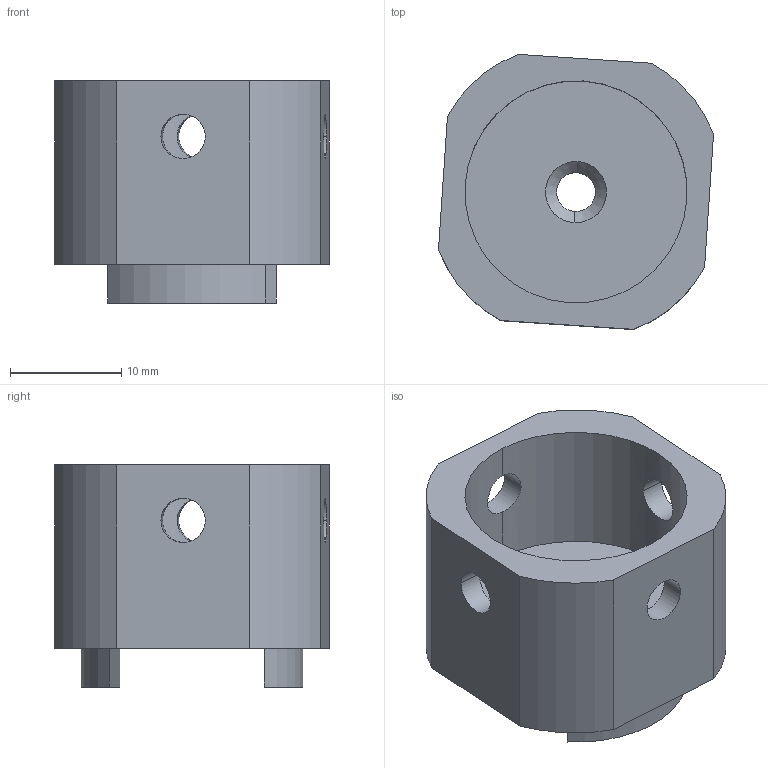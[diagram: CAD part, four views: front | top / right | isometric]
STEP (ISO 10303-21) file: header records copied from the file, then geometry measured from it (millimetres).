
FILE_DESCRIPTION( ('This file contains a STEP AP42 implementation' ,'as created by ZW3D STEP Interface translator.') ,'2;1' );
FILE_NAME( 'zkj-隅弇標撿.stp' ,'23 9 3.214430', (''), ('ZWCAD Software Co.'), 'Version 1.0', 'ZW3D to STEP translator', '' );
FILE_SCHEMA(('AUTOMOTIVE_DESIGN { 1 0 10303 214 1 1 1 1 }'));
Length unit declared in the file: millimetre
Products named in the file (2): 0; zkj-隅弇標撿
Bounding box: 24.75 x 24.75 x 20 mm (x, y, z)
Volume: 4891.3 mm3; surface area: 3402.9 mm2
Topology: 1 solids, 1 shells, 31 faces, 82 edges, 54 vertices
Faces by surface type: cylinder 18, plane 11, cone 2
Entity records: 1276 total; most frequent: CARTESIAN_POINT 417, DIRECTION 164, ORIENTED_EDGE 164, EDGE_CURVE 82, AXIS2_PLACEMENT_3D 62, VERTEX_POINT 54, EDGE_LOOP 42, VECTOR 40
